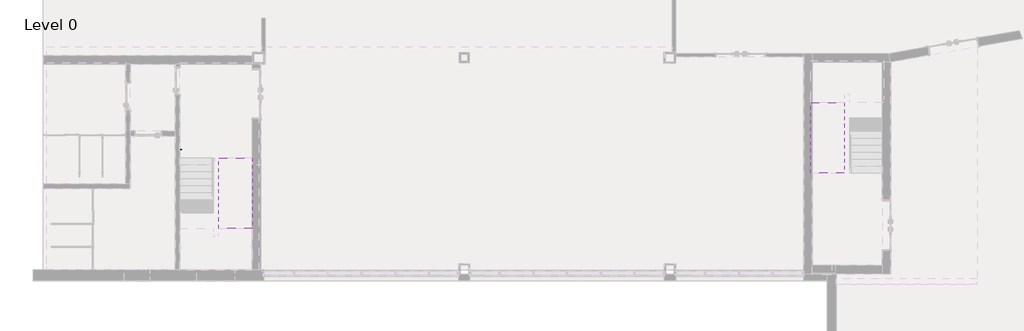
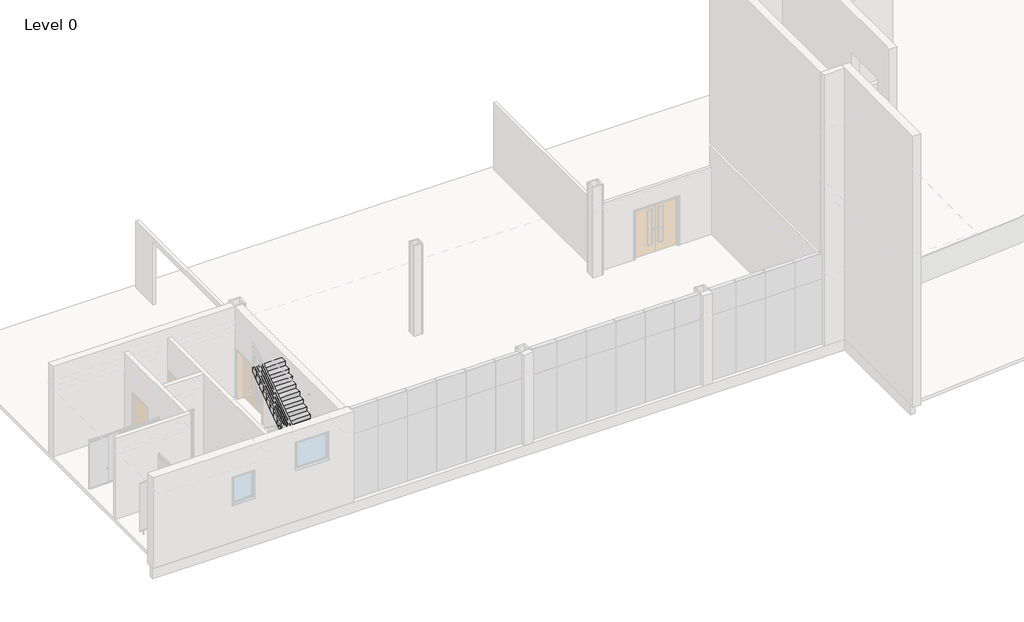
# One storey, part 12 of 14: 2 stair flights, 1 proxy.
"""IFC4 building model written with IfcOpenShell, lengths in millimetres."""

from ifc_helpers import new_model, si_unit, frame, origin, place, context, project, spatial, polyline, outline, extrude, faceted_brep, transform, mapped, element, save
from components import support_metal_circular_support_metal_circular_016e83f0

model = new_model("IFC4")

# Units and contexts
model_context = context("Model", 3, world=origin())
ifc_project = project(units=[si_unit("LENGTHUNIT", "METRE", prefix="MILLI")], contexts=[model_context])

# Site, building, storey
site = spatial("IfcSite", under=ifc_project)
building = spatial("IfcBuilding", under=site)
storey = spatial("IfcBuildingStorey", under=building, Name="Level 0", Elevation=0.0)

# Proxy
placement = place(None, origin())
support_metal_circular_support_metal_circular_shape = support_metal_circular_support_metal_circular_016e83f0(model_context)
element("IfcBuildingElementProxy", 1, Name="Support - Metal - Circular : Support - Metal - Circular", ObjectType="Support - Metal - Circular : Support - Metal - Circular", at=placement, inside=storey, context=model_context, shape_type="MappedRepresentation", body=[
    mapped(support_metal_circular_support_metal_circular_shape, transform((5322.6000024, 4600.0, 1059.3919555), x_axis=(0.0, 1.0, 0.0), y_axis=(-1.0, 0.0, 0.0), z_axis=(0.0, 0.0, 1.0))),
])

# Stair flights
element("IfcStairFlight", 2, ObjectType="1mm_Tread-150mm_Depth", at=placement, inside=storey, context=model_context, shape_type="SolidModel", body=[
    faceted_brep([(6637.2000025, 2050.0, 2126.2727273), (6637.2000025, 1800.0, 2126.2727273), (7837.2000023, 1800.0, 2126.2727273), (7837.2000023, 2050.0, 2126.2727273), (6637.2000025, 2050.0, 1942.3890055), (6637.2000025, 1800.0, 1765.1162782), (6637.2000025, 1800.0, 1949.0), (7837.2000023, 1800.0, 1765.1162782), (7837.2000023, 1800.0, 1949.0), (7837.2000023, 2050.0, 1942.3890055), (6637.2000025, 2300.0, 2303.5454545), (6637.2000025, 2050.0, 2303.5454545), (7837.2000023, 2050.0, 2303.5454545), (7837.2000023, 2300.0, 2303.5454545), (6637.2000025, 2300.0, 2119.6617328), (7837.2000023, 2300.0, 2119.6617328), (6637.2000025, 2550.0, 2480.8181818), (6637.2000025, 2300.0, 2480.8181818), (7837.2000023, 2300.0, 2480.8181818), (7837.2000023, 2550.0, 2480.8181818), (6637.2000025, 2550.0, 2296.93446), (7837.2000023, 2550.0, 2296.93446), (6637.2000025, 2800.0, 2658.0909091), (6637.2000025, 2550.0, 2658.0909091), (7837.2000023, 2550.0, 2658.0909091), (7837.2000023, 2800.0, 2658.0909091), (6637.2000025, 2800.0, 2474.2071873), (7837.2000023, 2800.0, 2474.2071873), (6637.2000025, 3050.0, 2835.3636364), (6637.2000025, 2800.0, 2835.3636364), (7837.2000023, 2800.0, 2835.3636364), (7837.2000023, 3050.0, 2835.3636364), (6637.2000025, 3050.0, 2651.4799146), (7837.2000023, 3050.0, 2651.4799146), (6637.2000025, 3300.0, 3012.6363636), (6637.2000025, 3050.0, 3012.6363636), (7837.2000023, 3050.0, 3012.6363636), (7837.2000023, 3300.0, 3012.6363636), (6637.2000025, 3300.0, 2828.7526418), (7837.2000023, 3300.0, 2828.7526418), (6637.2000025, 3550.0, 3189.9090909), (6637.2000025, 3300.0, 3189.9090909), (7837.2000023, 3300.0, 3189.9090909), (7837.2000023, 3550.0, 3189.9090909), (6637.2000025, 3550.0, 3006.0253691), (7837.2000023, 3550.0, 3006.0253691), (6637.2000025, 3800.0, 3367.1818182), (6637.2000025, 3550.0, 3367.1818182), (7837.2000023, 3550.0, 3367.1818182), (7837.2000023, 3800.0, 3367.1818182), (6637.2000025, 3800.0, 3183.2980964), (7837.2000023, 3800.0, 3183.2980964), (6637.2000025, 4050.0, 3544.4545455), (6637.2000025, 3800.0, 3544.4545455), (7837.2000023, 3800.0, 3544.4545455), (7837.2000023, 4050.0, 3544.4545455), (6637.2000025, 4050.0, 3360.5708237), (7837.2000023, 4050.0, 3360.5708237), (6637.2000025, 4300.0, 3537.8435509), (7837.2000023, 4300.0, 3537.8435509), (6637.2000025, 4300.0, 3721.7272727), (6637.2000025, 4050.0, 3721.7272727), (7837.2000023, 4050.0, 3721.7272727), (7837.2000023, 4300.0, 3721.7272727)], [[[0, 1, 2, 3]], [[1, 0, 4, 5, 6]], [[2, 1, 6, 5, 7, 8]], [[3, 2, 8, 7, 9]], [[10, 11, 12, 13]], [[11, 10, 14, 4, 0]], [[12, 11, 0, 3]], [[13, 12, 3, 9, 15]], [[16, 17, 18, 19]], [[17, 16, 20, 14, 10]], [[18, 17, 10, 13]], [[19, 18, 13, 15, 21]], [[22, 23, 24, 25]], [[23, 22, 26, 20, 16]], [[24, 23, 16, 19]], [[25, 24, 19, 21, 27]], [[28, 29, 30, 31]], [[29, 28, 32, 26, 22]], [[30, 29, 22, 25]], [[31, 30, 25, 27, 33]], [[34, 35, 36, 37]], [[35, 34, 38, 32, 28]], [[36, 35, 28, 31]], [[37, 36, 31, 33, 39]], [[40, 41, 42, 43]], [[41, 40, 44, 38, 34]], [[42, 41, 34, 37]], [[43, 42, 37, 39, 45]], [[46, 47, 48, 49]], [[47, 46, 50, 44, 40]], [[48, 47, 40, 43]], [[49, 48, 43, 45, 51]], [[52, 53, 54, 55]], [[53, 52, 56, 50, 46]], [[54, 53, 46, 49]], [[55, 54, 49, 51, 57]], [[5, 4, 14, 20, 26, 32, 38, 44, 50, 56, 58, 59, 57, 51, 45, 39, 33, 27, 21, 15, 9, 7]], [[60, 61, 62, 63]], [[61, 60, 58, 56, 52]], [[62, 61, 52, 55]], [[63, 62, 55, 57, 59]], [[60, 63, 59, 58]]]),
    extrude(outline(polyline([(6637.2000025, 2050.0), (7837.2000023, 2050.0), (7837.2000023, 1800.0), (6637.2000025, 1800.0), (6637.2000025, 2050.0)])), frame((0.0, 0.0, 2126.2727273), z_axis=(0.0, 0.0, 1.0), x_axis=(1.0, 0.0, 0.0)), (0.0, 0.0, 1.0), 1.0),
    extrude(outline(polyline([(6637.2000025, 2300.0), (7837.2000023, 2300.0), (7837.2000023, 2050.0), (6637.2000025, 2050.0), (6637.2000025, 2300.0)])), frame((0.0, 0.0, 2303.5454545), z_axis=(0.0, 0.0, 1.0), x_axis=(1.0, 0.0, 0.0)), (0.0, 0.0, 1.0), 1.0),
    extrude(outline(polyline([(6637.2000025, 2550.0), (7837.2000023, 2550.0), (7837.2000023, 2300.0), (6637.2000025, 2300.0), (6637.2000025, 2550.0)])), frame((0.0, 0.0, 2480.8181818), z_axis=(0.0, 0.0, 1.0), x_axis=(1.0, 0.0, 0.0)), (0.0, 0.0, 1.0), 1.0),
    extrude(outline(polyline([(6637.2000025, 2800.0), (7837.2000023, 2800.0), (7837.2000023, 2550.0), (6637.2000025, 2550.0), (6637.2000025, 2800.0)])), frame((0.0, 0.0, 2658.0909091), z_axis=(0.0, 0.0, 1.0), x_axis=(1.0, 0.0, 0.0)), (0.0, 0.0, 1.0), 1.0),
    extrude(outline(polyline([(6637.2000025, 3050.0), (7837.2000023, 3050.0), (7837.2000023, 2800.0), (6637.2000025, 2800.0), (6637.2000025, 3050.0)])), frame((0.0, 0.0, 2835.3636364), z_axis=(0.0, 0.0, 1.0), x_axis=(1.0, 0.0, 0.0)), (0.0, 0.0, 1.0), 1.0),
    extrude(outline(polyline([(6637.2000025, 3300.0), (7837.2000023, 3300.0), (7837.2000023, 3050.0), (6637.2000025, 3050.0), (6637.2000025, 3300.0)])), frame((0.0, 0.0, 3012.6363636), z_axis=(0.0, 0.0, 1.0), x_axis=(1.0, 0.0, 0.0)), (0.0, 0.0, 1.0), 1.0),
    extrude(outline(polyline([(6637.2000025, 3550.0), (7837.2000023, 3550.0), (7837.2000023, 3300.0), (6637.2000025, 3300.0), (6637.2000025, 3550.0)])), frame((0.0, 0.0, 3189.9090909), z_axis=(0.0, 0.0, 1.0), x_axis=(1.0, 0.0, 0.0)), (0.0, 0.0, 1.0), 1.0),
    extrude(outline(polyline([(6637.2000025, 3800.0), (7837.2000023, 3800.0), (7837.2000023, 3550.0), (6637.2000025, 3550.0), (6637.2000025, 3800.0)])), frame((0.0, 0.0, 3367.1818182), z_axis=(0.0, 0.0, 1.0), x_axis=(1.0, 0.0, 0.0)), (0.0, 0.0, 1.0), 1.0),
    extrude(outline(polyline([(6637.2000025, 4050.0), (7837.2000023, 4050.0), (7837.2000023, 3800.0), (6637.2000025, 3800.0), (6637.2000025, 4050.0)])), frame((0.0, 0.0, 3544.4545455), z_axis=(0.0, 0.0, 1.0), x_axis=(1.0, 0.0, 0.0)), (0.0, 0.0, 1.0), 1.0),
    extrude(outline(polyline([(6637.2000025, 4300.0), (7837.2000023, 4300.0), (7837.2000023, 4050.0), (6637.2000025, 4050.0), (6637.2000025, 4300.0)])), frame((0.0, 0.0, 3721.7272727), z_axis=(0.0, 0.0, 1.0), x_axis=(1.0, 0.0, 0.0)), (0.0, 0.0, 1.0), 1.0),
])
element("IfcStairFlight", 3, ObjectType="1mm_Tread-150mm_Depth", at=placement, inside=storey, context=model_context, shape_type="SolidModel", body=[
    faceted_brep([(28862.2000029, 6013.2000006, 2126.2727273), (28862.2000029, 6263.2000006, 2126.2727273), (27662.2000031, 6263.2000006, 2126.2727273), (27662.2000031, 6013.2000006, 2126.2727273), (28862.2000029, 6013.2000006, 1942.3890055), (28862.2000029, 6263.2000006, 1765.1162782), (28862.2000029, 6263.2000006, 1949.0), (27662.2000031, 6263.2000006, 1765.1162782), (27662.2000031, 6263.2000006, 1949.0), (27662.2000031, 6013.2000006, 1942.3890055), (28862.2000029, 5763.2000006, 2303.5454545), (28862.2000029, 6013.2000006, 2303.5454545), (27662.2000031, 6013.2000006, 2303.5454545), (27662.2000031, 5763.2000006, 2303.5454545), (28862.2000029, 5763.2000006, 2119.6617328), (27662.2000031, 5763.2000006, 2119.6617328), (28862.2000029, 5513.2000006, 2480.8181818), (28862.2000029, 5763.2000006, 2480.8181818), (27662.2000031, 5763.2000006, 2480.8181818), (27662.2000031, 5513.2000006, 2480.8181818), (28862.2000029, 5513.2000006, 2296.93446), (27662.2000031, 5513.2000006, 2296.93446), (28862.2000029, 5263.2000006, 2658.0909091), (28862.2000029, 5513.2000006, 2658.0909091), (27662.2000031, 5513.2000006, 2658.0909091), (27662.2000031, 5263.2000006, 2658.0909091), (28862.2000029, 5263.2000006, 2474.2071873), (27662.2000031, 5263.2000006, 2474.2071873), (28862.2000029, 5013.2000006, 2835.3636364), (28862.2000029, 5263.2000006, 2835.3636364), (27662.2000031, 5263.2000006, 2835.3636364), (27662.2000031, 5013.2000006, 2835.3636364), (28862.2000029, 5013.2000006, 2651.4799146), (27662.2000031, 5013.2000006, 2651.4799146), (28862.2000029, 4763.2000006, 3012.6363636), (28862.2000029, 5013.2000006, 3012.6363636), (27662.2000031, 5013.2000006, 3012.6363636), (27662.2000031, 4763.2000006, 3012.6363636), (28862.2000029, 4763.2000006, 2828.7526418), (27662.2000031, 4763.2000006, 2828.7526418), (28862.2000029, 4513.2000006, 3189.9090909), (28862.2000029, 4763.2000006, 3189.9090909), (27662.2000031, 4763.2000006, 3189.9090909), (27662.2000031, 4513.2000006, 3189.9090909), (28862.2000029, 4513.2000006, 3006.0253691), (27662.2000031, 4513.2000006, 3006.0253691), (28862.2000029, 4263.2000006, 3367.1818182), (28862.2000029, 4513.2000006, 3367.1818182), (27662.2000031, 4513.2000006, 3367.1818182), (27662.2000031, 4263.2000006, 3367.1818182), (28862.2000029, 4263.2000006, 3183.2980964), (27662.2000031, 4263.2000006, 3183.2980964), (28862.2000029, 4013.2000006, 3544.4545455), (28862.2000029, 4263.2000006, 3544.4545455), (27662.2000031, 4263.2000006, 3544.4545455), (27662.2000031, 4013.2000006, 3544.4545455), (28862.2000029, 4013.2000006, 3360.5708237), (27662.2000031, 4013.2000006, 3360.5708237), (28862.2000029, 3763.2000006, 3537.8435509), (27662.2000031, 3763.2000006, 3537.8435509), (28862.2000029, 3763.2000006, 3721.7272727), (28862.2000029, 4013.2000006, 3721.7272727), (27662.2000031, 4013.2000006, 3721.7272727), (27662.2000031, 3763.2000006, 3721.7272727)], [[[0, 1, 2, 3]], [[1, 0, 4, 5, 6]], [[2, 1, 6, 5, 7, 8]], [[3, 2, 8, 7, 9]], [[10, 11, 12, 13]], [[11, 10, 14, 4, 0]], [[12, 11, 0, 3]], [[13, 12, 3, 9, 15]], [[16, 17, 18, 19]], [[17, 16, 20, 14, 10]], [[18, 17, 10, 13]], [[19, 18, 13, 15, 21]], [[22, 23, 24, 25]], [[23, 22, 26, 20, 16]], [[24, 23, 16, 19]], [[25, 24, 19, 21, 27]], [[28, 29, 30, 31]], [[29, 28, 32, 26, 22]], [[30, 29, 22, 25]], [[31, 30, 25, 27, 33]], [[34, 35, 36, 37]], [[35, 34, 38, 32, 28]], [[36, 35, 28, 31]], [[37, 36, 31, 33, 39]], [[40, 41, 42, 43]], [[41, 40, 44, 38, 34]], [[42, 41, 34, 37]], [[43, 42, 37, 39, 45]], [[46, 47, 48, 49]], [[47, 46, 50, 44, 40]], [[48, 47, 40, 43]], [[49, 48, 43, 45, 51]], [[52, 53, 54, 55]], [[53, 52, 56, 50, 46]], [[54, 53, 46, 49]], [[55, 54, 49, 51, 57]], [[5, 4, 14, 20, 26, 32, 38, 44, 50, 56, 58, 59, 57, 51, 45, 39, 33, 27, 21, 15, 9, 7]], [[60, 61, 62, 63]], [[61, 60, 58, 56, 52]], [[62, 61, 52, 55]], [[63, 62, 55, 57, 59]], [[60, 63, 59, 58]]]),
    extrude(outline(polyline([(28862.2000029, 6013.2000006), (27662.2000031, 6013.2000006), (27662.2000031, 6263.2000006), (28862.2000029, 6263.2000006), (28862.2000029, 6013.2000006)])), frame((0.0, 0.0, 2126.2727273), z_axis=(0.0, 0.0, 1.0), x_axis=(1.0, 0.0, 0.0)), (0.0, 0.0, 1.0), 1.0),
    extrude(outline(polyline([(28862.2000029, 5763.2000006), (27662.2000031, 5763.2000006), (27662.2000031, 6013.2000006), (28862.2000029, 6013.2000006), (28862.2000029, 5763.2000006)])), frame((0.0, 0.0, 2303.5454545), z_axis=(0.0, 0.0, 1.0), x_axis=(1.0, 0.0, 0.0)), (0.0, 0.0, 1.0), 1.0),
    extrude(outline(polyline([(28862.2000029, 5513.2000006), (27662.2000031, 5513.2000006), (27662.2000031, 5763.2000006), (28862.2000029, 5763.2000006), (28862.2000029, 5513.2000006)])), frame((0.0, 0.0, 2480.8181818), z_axis=(0.0, 0.0, 1.0), x_axis=(1.0, 0.0, 0.0)), (0.0, 0.0, 1.0), 1.0),
    extrude(outline(polyline([(28862.2000029, 5263.2000006), (27662.2000031, 5263.2000006), (27662.2000031, 5513.2000006), (28862.2000029, 5513.2000006), (28862.2000029, 5263.2000006)])), frame((0.0, 0.0, 2658.0909091), z_axis=(0.0, 0.0, 1.0), x_axis=(1.0, 0.0, 0.0)), (0.0, 0.0, 1.0), 1.0),
    extrude(outline(polyline([(28862.2000029, 5013.2000006), (27662.2000031, 5013.2000006), (27662.2000031, 5263.2000006), (28862.2000029, 5263.2000006), (28862.2000029, 5013.2000006)])), frame((0.0, 0.0, 2835.3636364), z_axis=(0.0, 0.0, 1.0), x_axis=(1.0, 0.0, 0.0)), (0.0, 0.0, 1.0), 1.0),
    extrude(outline(polyline([(28862.2000029, 4763.2000006), (27662.2000031, 4763.2000006), (27662.2000031, 5013.2000006), (28862.2000029, 5013.2000006), (28862.2000029, 4763.2000006)])), frame((0.0, 0.0, 3012.6363636), z_axis=(0.0, 0.0, 1.0), x_axis=(1.0, 0.0, 0.0)), (0.0, 0.0, 1.0), 1.0),
    extrude(outline(polyline([(28862.2000029, 4513.2000006), (27662.2000031, 4513.2000006), (27662.2000031, 4763.2000006), (28862.2000029, 4763.2000006), (28862.2000029, 4513.2000006)])), frame((0.0, 0.0, 3189.9090909), z_axis=(0.0, 0.0, 1.0), x_axis=(1.0, 0.0, 0.0)), (0.0, 0.0, 1.0), 1.0),
    extrude(outline(polyline([(28862.2000029, 4263.2000006), (27662.2000031, 4263.2000006), (27662.2000031, 4513.2000006), (28862.2000029, 4513.2000006), (28862.2000029, 4263.2000006)])), frame((0.0, 0.0, 3367.1818182), z_axis=(0.0, 0.0, 1.0), x_axis=(1.0, 0.0, 0.0)), (0.0, 0.0, 1.0), 1.0),
    extrude(outline(polyline([(28862.2000029, 4013.2000006), (27662.2000031, 4013.2000006), (27662.2000031, 4263.2000006), (28862.2000029, 4263.2000006), (28862.2000029, 4013.2000006)])), frame((0.0, 0.0, 3544.4545455), z_axis=(0.0, 0.0, 1.0), x_axis=(1.0, 0.0, 0.0)), (0.0, 0.0, 1.0), 1.0),
    extrude(outline(polyline([(28862.2000029, 3763.2000006), (27662.2000031, 3763.2000006), (27662.2000031, 4013.2000006), (28862.2000029, 4013.2000006), (28862.2000029, 3763.2000006)])), frame((0.0, 0.0, 3721.7272727), z_axis=(0.0, 0.0, 1.0), x_axis=(1.0, 0.0, 0.0)), (0.0, 0.0, 1.0), 1.0),
])

save(model, "model.ifc")
